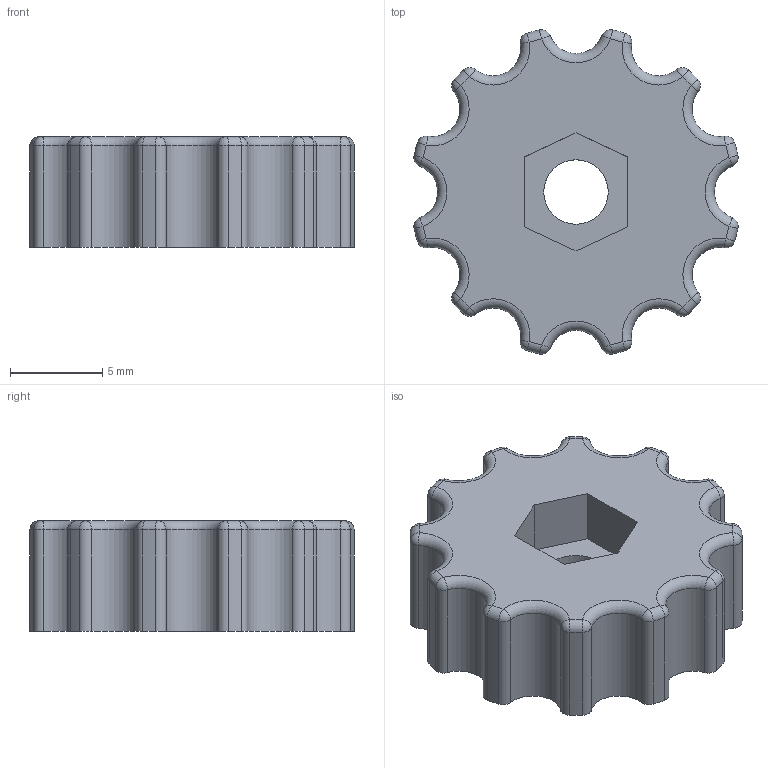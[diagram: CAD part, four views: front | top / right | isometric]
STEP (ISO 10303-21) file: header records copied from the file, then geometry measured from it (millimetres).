
FILE_DESCRIPTION(/* description */ (''),/* implementation_level */ '2;1');
FILE_NAME(/* name */ 'D:\3D печать\Мои проекты\Archy MK 2\STEP\колесо регулировки.stp',/* time_stamp */ '2019-03-20T22:08:07+06:00',/* author */ ('Пользователь'),/* organization */ (''),/* preprocessor_version */ 'ST-DEVELOPER v16.5',/* originating_system */ 'Autodesk Inventor 2017',/* authorisation */ '');
FILE_SCHEMA (('AUTOMOTIVE_DESIGN { 1 0 10303 214 3 1 1 }'));
Length unit declared in the file: millimetre
Products named in the file (1): колесо \X2\0440043504330443043B
04380440043E0432043A0438\X0\
Bounding box: 17.58 x 17.58 x 6 mm (x, y, z)
Volume: 1156.6 mm3; surface area: 899.4 mm2
Topology: 1 solids, 1 shells, 106 faces, 237 edges, 134 vertices
Faces by surface type: cylinder 49, torus 24, sphere 24, plane 9
Full cylindrical faces by diameter (mm): 3.5 x1
Entity records: 2978 total; most frequent: DIRECTION 620, CARTESIAN_POINT 477, ORIENTED_EDGE 472, AXIS2_PLACEMENT_3D 277, EDGE_CURVE 236, CIRCLE 170, VERTEX_POINT 134, EDGE_LOOP 110
